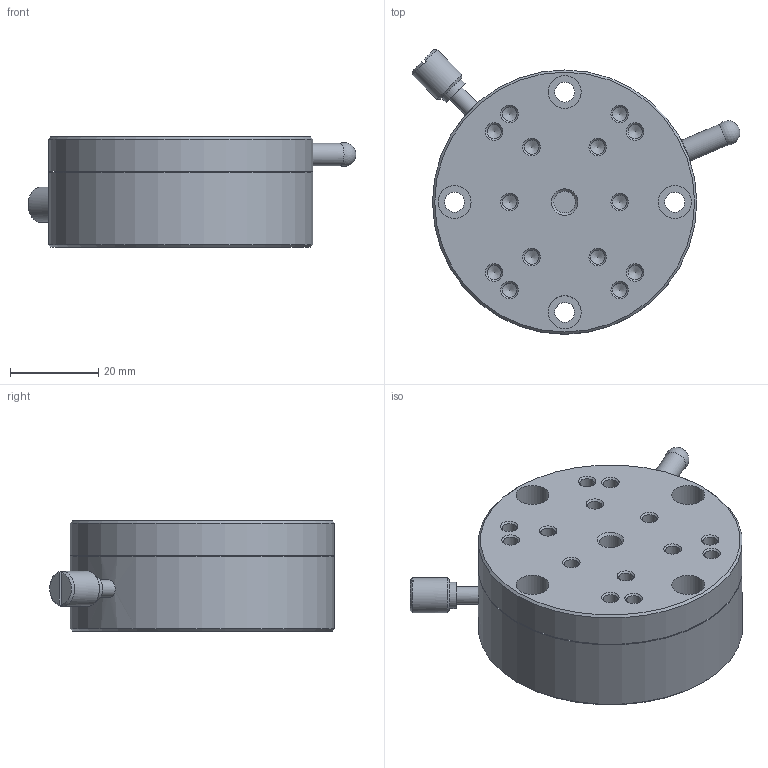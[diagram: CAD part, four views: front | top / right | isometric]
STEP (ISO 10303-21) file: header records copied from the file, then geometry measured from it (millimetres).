
FILE_DESCRIPTION((''),'2;1');
FILE_NAME('C:\Users\Administrator\AppData\Local\Temp\Mastercam 2018\5BHGBGGOLZ\TEMP.stp','2021-04-19T11:12:32',(''),(''),'STEP Write','Mastercam 2018 ... CNC Software, Inc.','');
FILE_SCHEMA(('AUTOMOTIVE_DESIGN'));
Length unit declared in the file: millimetre
Products named in the file (1): None
Bounding box: 74.43 x 64.65 x 25 mm (x, y, z)
Volume: 65655.1 mm3; surface area: 24518.3 mm2
Topology: 2 solids, 2 shells, 93 faces, 219 edges, 140 vertices
Faces by surface type: cylinder 40, cone 34, plane 18, sphere 1
Full cylindrical faces by diameter (mm): 3.242 x14, 4 x1, 4.5 x4, 4.917 x1, 5.1 x1, 6 x1, 7.5 x12, 8 x1, 40 x1, 58 x2, 60 x2
Entity records: 2277 total; most frequent: DIRECTION 404, CARTESIAN_POINT 385, ORIENTED_EDGE 230, EDGE_LOOP 202, AXIS2_PLACEMENT_3D 198, FACE_BOUND 149, EDGE_CURVE 115, VERTEX_POINT 109
